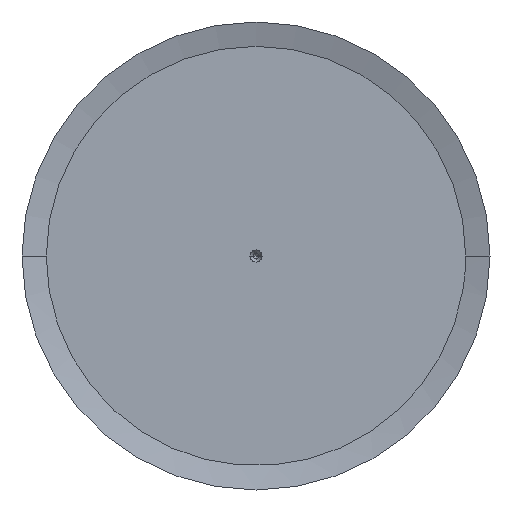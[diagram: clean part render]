
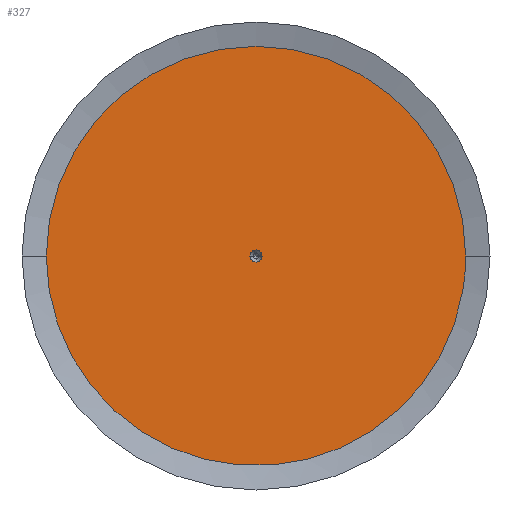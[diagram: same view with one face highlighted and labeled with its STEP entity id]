
A CAD part, left-side view. The second image highlights one B-rep face of the part: STEP entity #327.
In plain terms, the highlighted planar face has unit normal (-1, 0, 0).
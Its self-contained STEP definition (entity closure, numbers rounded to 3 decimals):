
#327=ADVANCED_FACE('',(#837,#838),#839,.T.);
#837=FACE_BOUND('',#1350,.T.);
#838=FACE_OUTER_BOUND('',#1351,.T.);
#839=PLANE('',#1352);
#1350=EDGE_LOOP('',(#3574,#3575));
#1351=EDGE_LOOP('',(#3576,#3577,#3578));
#1352=AXIS2_PLACEMENT_3D('',#3579,#3580,#3581);
#3574=ORIENTED_EDGE('',*,*,#3831,.T.);
#3575=ORIENTED_EDGE('',*,*,#3844,.T.);
#3576=ORIENTED_EDGE('',*,*,#3704,.T.);
#3577=ORIENTED_EDGE('',*,*,#4176,.T.);
#3578=ORIENTED_EDGE('',*,*,#3705,.T.);
#3579=CARTESIAN_POINT('',(0.0,0.0,0.0));
#3580=DIRECTION('',(-1.0,0.0,0.0));
#3581=DIRECTION('',(0.0,0.0,1.0));
#3704=EDGE_CURVE('',#4546,#4544,#4547,.T.);
#3705=EDGE_CURVE('',#4541,#4546,#4548,.T.);
#3831=EDGE_CURVE('',#4789,#4791,#4793,.T.);
#3844=EDGE_CURVE('',#4791,#4789,#4813,.T.);
#4176=EDGE_CURVE('',#4544,#4541,#5340,.T.);
#4541=VERTEX_POINT('',#6155);
#4544=VERTEX_POINT('',#6159);
#4546=VERTEX_POINT('',#6162);
#4547=CIRCLE('',#6163,69.0);
#4548=CIRCLE('',#6164,69.0);
#4789=VERTEX_POINT('',#6803);
#4791=VERTEX_POINT('',#6806);
#4793=CIRCLE('',#6809,2.0);
#4813=CIRCLE('',#6835,2.0);
#5340=CIRCLE('',#7836,69.0);
#6155=CARTESIAN_POINT('',(0.0,69.0,0.));
#6159=CARTESIAN_POINT('',(0.0,-69.0,0.));
#6162=CARTESIAN_POINT('',(0.0,-68.052,-11.4));
#6163=AXIS2_PLACEMENT_3D('',#8626,#8627,#8628);
#6164=AXIS2_PLACEMENT_3D('',#8629,#8630,#8631);
#6803=CARTESIAN_POINT('',(0.0,2.0,0.0));
#6806=CARTESIAN_POINT('',(0.0,-2.0,0.));
#6809=AXIS2_PLACEMENT_3D('',#8783,#8784,#8785);
#6835=AXIS2_PLACEMENT_3D('',#8810,#8811,#8812);
#7836=AXIS2_PLACEMENT_3D('',#9449,#9450,#9451);
#8626=CARTESIAN_POINT('',(0.0,0.0,0.0));
#8627=DIRECTION('',(-1.0,0.0,0.0));
#8628=DIRECTION('',(0.0,1.0,0.0));
#8629=CARTESIAN_POINT('',(0.0,0.0,0.0));
#8630=DIRECTION('',(-1.0,0.0,0.0));
#8631=DIRECTION('',(0.0,1.0,0.0));
#8783=CARTESIAN_POINT('',(0.0,0.0,0.0));
#8784=DIRECTION('',(1.0,0.0,0.0));
#8785=DIRECTION('',(0.0,1.0,0.0));
#8810=CARTESIAN_POINT('',(0.0,0.0,0.0));
#8811=DIRECTION('',(1.0,0.0,0.0));
#8812=DIRECTION('',(0.0,1.0,0.0));
#9449=CARTESIAN_POINT('',(0.0,0.0,0.0));
#9450=DIRECTION('',(-1.0,0.0,0.0));
#9451=DIRECTION('',(0.0,1.0,0.0));
